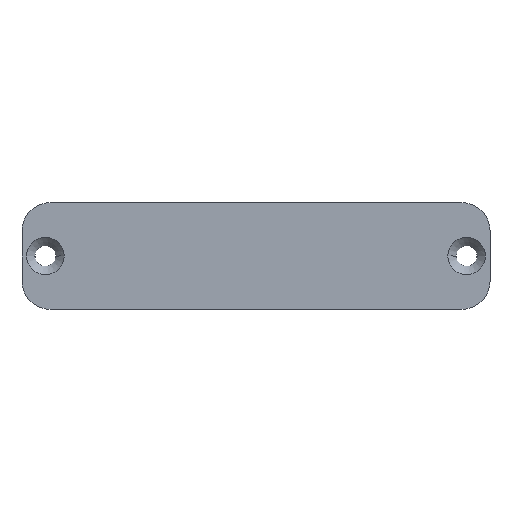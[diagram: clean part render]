
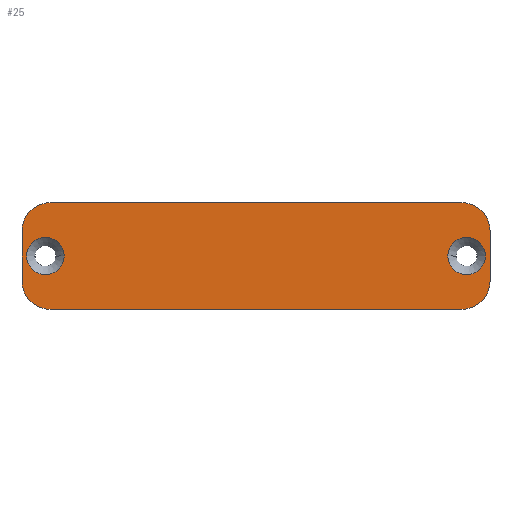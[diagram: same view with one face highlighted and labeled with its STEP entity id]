
A CAD part, top view. The second image highlights one B-rep face of the part: STEP entity #25.
In plain terms, the highlighted planar face has unit normal (0, 0, 1).
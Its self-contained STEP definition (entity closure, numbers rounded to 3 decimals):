
#6 = CARTESIAN_POINT ( 'NONE',  ( -91.75, -57.463, 1. ) ) ;
#7 = ORIENTED_EDGE ( 'NONE', *, *, #82, .T. ) ;
#8 = ORIENTED_EDGE ( 'NONE', *, *, #399, .T. ) ;
#9 = CARTESIAN_POINT ( 'NONE',  ( -47.25, -54.763, 1. ) ) ;
#13 = VECTOR ( 'NONE', #481, 1000. ) ;
#14 = LINE ( 'NONE', #49, #389 ) ;
#18 = ORIENTED_EDGE ( 'NONE', *, *, #373, .F. ) ;
#20 = FACE_OUTER_BOUND ( 'NONE', #58, .T. ) ;
#25 = ADVANCED_FACE ( 'NONE', ( #407, #553, #20 ), #107, .T. ) ;
#26 = DIRECTION ( 'NONE',  ( 1., 0., 0. ) ) ;
#27 = AXIS2_PLACEMENT_3D ( 'NONE', #314, #369, #135 ) ;
#34 = AXIS2_PLACEMENT_3D ( 'NONE', #496, #262, #264 ) ;
#36 = CARTESIAN_POINT ( 'NONE',  ( -93.75, -57.463, 1. ) ) ;
#41 = VERTEX_POINT ( 'NONE', #579 ) ;
#48 = VERTEX_POINT ( 'NONE', #485 ) ;
#49 = CARTESIAN_POINT ( 'NONE',  ( -47.25, -51.763, 1. ) ) ;
#51 = CARTESIAN_POINT ( 'NONE',  ( -89.75, -57.463, 1. ) ) ;
#58 = EDGE_LOOP ( 'NONE', ( #290, #513, #8, #7, #409, #347, #367, #528 ) ) ;
#59 = VERTEX_POINT ( 'NONE', #148 ) ;
#82 = EDGE_CURVE ( 'NONE', #59, #565, #14, .T. ) ;
#107 = PLANE ( 'NONE',  #559 ) ;
#114 = VERTEX_POINT ( 'NONE', #307 ) ;
#121 = AXIS2_PLACEMENT_3D ( 'NONE', #448, #166, #552 ) ;
#124 = ORIENTED_EDGE ( 'NONE', *, *, #415, .F. ) ;
#128 = CIRCLE ( 'NONE', #165, 2. ) ;
#135 = DIRECTION ( 'NONE',  ( 1., 0., 0. ) ) ;
#141 = AXIS2_PLACEMENT_3D ( 'NONE', #370, #413, #223 ) ;
#148 = CARTESIAN_POINT ( 'NONE',  ( -47.25, -51.763, 1. ) ) ;
#150 = VERTEX_POINT ( 'NONE', #523 ) ;
#155 = DIRECTION ( 'NONE',  ( -1., 0., 0. ) ) ;
#165 = AXIS2_PLACEMENT_3D ( 'NONE', #271, #515, #26 ) ;
#166 = DIRECTION ( 'NONE',  ( 0., 0., 1. ) ) ;
#173 = CIRCLE ( 'NONE', #625, 2. ) ;
#184 = AXIS2_PLACEMENT_3D ( 'NONE', #9, #353, #356 ) ;
#205 = CARTESIAN_POINT ( 'NONE',  ( -47.25, -60.163, 1. ) ) ;
#212 = DIRECTION ( 'NONE',  ( 0., 0., 1. ) ) ;
#223 = DIRECTION ( 'NONE',  ( 1., 0., 0. ) ) ;
#224 = CIRCLE ( 'NONE', #121, 3. ) ;
#230 = CARTESIAN_POINT ( 'NONE',  ( -44.25, -60.163, 1. ) ) ;
#237 = CIRCLE ( 'NONE', #539, 3. ) ;
#241 = CARTESIAN_POINT ( 'NONE',  ( -91.25, -51.763, 1. ) ) ;
#262 = DIRECTION ( 'NONE',  ( 0., 0., 1. ) ) ;
#264 = DIRECTION ( 'NONE',  ( 1., 0., 0. ) ) ;
#271 = CARTESIAN_POINT ( 'NONE',  ( -46.75, -57.463, 1. ) ) ;
#277 = VECTOR ( 'NONE', #567, 1000. ) ;
#287 = VECTOR ( 'NONE', #359, 1000. ) ;
#290 = ORIENTED_EDGE ( 'NONE', *, *, #403, .T. ) ;
#304 = CARTESIAN_POINT ( 'NONE',  ( -94.25, -54.763, 1. ) ) ;
#307 = CARTESIAN_POINT ( 'NONE',  ( -44.75, -57.463, 1. ) ) ;
#314 = CARTESIAN_POINT ( 'NONE',  ( -91.75, -57.463, 1. ) ) ;
#321 = VERTEX_POINT ( 'NONE', #51 ) ;
#329 = EDGE_CURVE ( 'NONE', #565, #600, #237, .T. ) ;
#333 = LINE ( 'NONE', #427, #13 ) ;
#347 = ORIENTED_EDGE ( 'NONE', *, *, #352, .T. ) ;
#352 = EDGE_CURVE ( 'NONE', #600, #48, #405, .T. ) ;
#353 = DIRECTION ( 'NONE',  ( 0., 0., 1. ) ) ;
#356 = DIRECTION ( 'NONE',  ( 1., 0., 0. ) ) ;
#359 = DIRECTION ( 'NONE',  ( 0., -1., 0. ) ) ;
#367 = ORIENTED_EDGE ( 'NONE', *, *, #406, .T. ) ;
#369 = DIRECTION ( 'NONE',  ( 0., 0., 1. ) ) ;
#370 = CARTESIAN_POINT ( 'NONE',  ( -46.75, -57.463, 1. ) ) ;
#372 = CARTESIAN_POINT ( 'NONE',  ( -44.25, -54.763, 1. ) ) ;
#373 = EDGE_CURVE ( 'NONE', #321, #586, #173, .T. ) ;
#380 = VERTEX_POINT ( 'NONE', #447 ) ;
#389 = VECTOR ( 'NONE', #155, 1000. ) ;
#390 = DIRECTION ( 'NONE',  ( 0., 0., 1. ) ) ;
#393 = CIRCLE ( 'NONE', #184, 3. ) ;
#399 = EDGE_CURVE ( 'NONE', #499, #59, #393, .T. ) ;
#403 = EDGE_CURVE ( 'NONE', #150, #41, #568, .T. ) ;
#405 = LINE ( 'NONE', #304, #287 ) ;
#406 = EDGE_CURVE ( 'NONE', #48, #380, #224, .T. ) ;
#407 = FACE_BOUND ( 'NONE', #422, .T. ) ;
#409 = ORIENTED_EDGE ( 'NONE', *, *, #329, .T. ) ;
#410 = EDGE_CURVE ( 'NONE', #491, #114, #128, .T. ) ;
#413 = DIRECTION ( 'NONE',  ( 0., 0., 1. ) ) ;
#415 = EDGE_CURVE ( 'NONE', #586, #321, #453, .T. ) ;
#422 = EDGE_LOOP ( 'NONE', ( #18, #124 ) ) ;
#427 = CARTESIAN_POINT ( 'NONE',  ( -91.25, -63.163, 1. ) ) ;
#429 = CARTESIAN_POINT ( 'NONE',  ( -91.25, -54.763, 1. ) ) ;
#433 = DIRECTION ( 'NONE',  ( 0., 0., 1. ) ) ;
#434 = ORIENTED_EDGE ( 'NONE', *, *, #454, .F. ) ;
#439 = CIRCLE ( 'NONE', #141, 2. ) ;
#443 = EDGE_CURVE ( 'NONE', #41, #499, #592, .T. ) ;
#447 = CARTESIAN_POINT ( 'NONE',  ( -91.25, -63.163, 1. ) ) ;
#448 = CARTESIAN_POINT ( 'NONE',  ( -91.25, -60.163, 1. ) ) ;
#451 = DIRECTION ( 'NONE',  ( 1., 0., 0. ) ) ;
#453 = CIRCLE ( 'NONE', #27, 2. ) ;
#454 = EDGE_CURVE ( 'NONE', #114, #491, #439, .T. ) ;
#458 = EDGE_LOOP ( 'NONE', ( #434, #564 ) ) ;
#474 = CARTESIAN_POINT ( 'NONE',  ( -94.25, -54.763, 1. ) ) ;
#481 = DIRECTION ( 'NONE',  ( 1., 0., 0. ) ) ;
#483 = DIRECTION ( 'NONE',  ( 1., 0., 0. ) ) ;
#485 = CARTESIAN_POINT ( 'NONE',  ( -94.25, -60.163, 1. ) ) ;
#488 = DIRECTION ( 'NONE',  ( 1., 0., 0. ) ) ;
#491 = VERTEX_POINT ( 'NONE', #574 ) ;
#496 = CARTESIAN_POINT ( 'NONE',  ( -47.25, -60.163, 1. ) ) ;
#499 = VERTEX_POINT ( 'NONE', #372 ) ;
#513 = ORIENTED_EDGE ( 'NONE', *, *, #443, .T. ) ;
#515 = DIRECTION ( 'NONE',  ( 0., 0., 1. ) ) ;
#523 = CARTESIAN_POINT ( 'NONE',  ( -47.25, -63.163, 1. ) ) ;
#528 = ORIENTED_EDGE ( 'NONE', *, *, #619, .T. ) ;
#539 = AXIS2_PLACEMENT_3D ( 'NONE', #429, #390, #483 ) ;
#552 = DIRECTION ( 'NONE',  ( 1., 0., 0. ) ) ;
#553 = FACE_BOUND ( 'NONE', #458, .T. ) ;
#559 = AXIS2_PLACEMENT_3D ( 'NONE', #205, #433, #488 ) ;
#564 = ORIENTED_EDGE ( 'NONE', *, *, #410, .F. ) ;
#565 = VERTEX_POINT ( 'NONE', #241 ) ;
#567 = DIRECTION ( 'NONE',  ( 0., 1., 0. ) ) ;
#568 = CIRCLE ( 'NONE', #34, 3. ) ;
#574 = CARTESIAN_POINT ( 'NONE',  ( -48.75, -57.463, 1. ) ) ;
#579 = CARTESIAN_POINT ( 'NONE',  ( -44.25, -60.163, 1. ) ) ;
#586 = VERTEX_POINT ( 'NONE', #36 ) ;
#592 = LINE ( 'NONE', #230, #277 ) ;
#600 = VERTEX_POINT ( 'NONE', #474 ) ;
#619 = EDGE_CURVE ( 'NONE', #380, #150, #333, .T. ) ;
#625 = AXIS2_PLACEMENT_3D ( 'NONE', #6, #212, #451 ) ;
